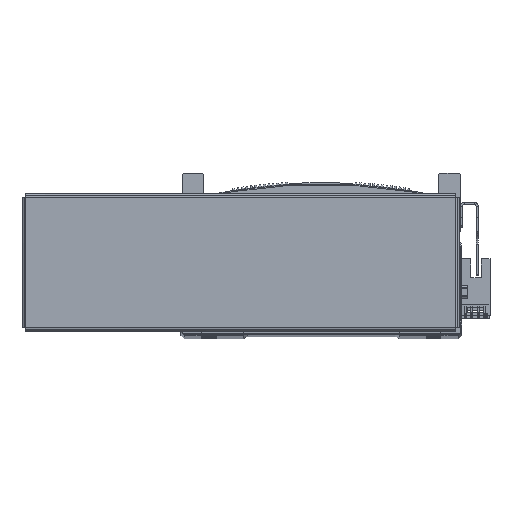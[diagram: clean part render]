
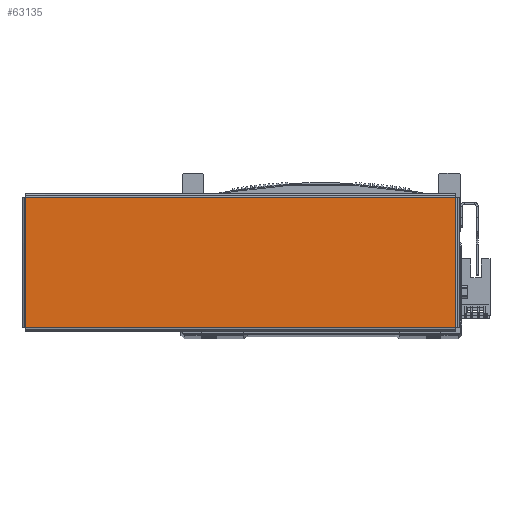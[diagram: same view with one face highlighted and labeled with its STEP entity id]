
A CAD part, top view. The second image highlights one B-rep face of the part: STEP entity #63135.
In plain terms, the highlighted planar face has unit normal (0, 0, 1) as drawn and (0, -1, 0) by its records, which use the part's own axes.
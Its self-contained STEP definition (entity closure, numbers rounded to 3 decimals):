
#4062 = CARTESIAN_POINT ( 'NONE',  ( -103.513, -1., 31.393 ) ) ;
#4072 = DIRECTION ( 'NONE',  ( 0., 0., -1. ) ) ;
#4110 = CARTESIAN_POINT ( 'NONE',  ( -103.543, -1., -31.363 ) ) ;
#4113 = DIRECTION ( 'NONE',  ( 1., 0., 0. ) ) ;
#4127 = CARTESIAN_POINT ( 'NONE',  ( 103.543, -1., 31.363 ) ) ;
#4188 = DIRECTION ( 'NONE',  ( -1., 0., 0. ) ) ;
#4222 = DIRECTION ( 'NONE',  ( 0., 0., 1. ) ) ;
#4225 = CARTESIAN_POINT ( 'NONE',  ( 103.513, -1., -31.393 ) ) ;
#5406 = AXIS2_PLACEMENT_3D ( 'NONE', #19233, #19224, #19238 ) ;
#19224 = DIRECTION ( 'NONE',  ( 0., 1., 0. ) ) ;
#19233 = CARTESIAN_POINT ( 'NONE',  ( 0., -1., 0. ) ) ;
#19238 = DIRECTION ( 'NONE',  ( 0., 0., 1. ) ) ;
#19263 = PLANE ( 'NONE',  #5406 ) ;
#29894 = ORIENTED_EDGE ( 'NONE', *, *, #64880, .T. ) ;
#29896 = ORIENTED_EDGE ( 'NONE', *, *, #64928, .T. ) ;
#29913 = ORIENTED_EDGE ( 'NONE', *, *, #64902, .T. ) ;
#29925 = ORIENTED_EDGE ( 'NONE', *, *, #64908, .T. ) ;
#36789 = CARTESIAN_POINT ( 'NONE',  ( -103.513, -1., 31.363 ) ) ;
#36816 = CARTESIAN_POINT ( 'NONE',  ( 103.513, -1., -31.363 ) ) ;
#36840 = CARTESIAN_POINT ( 'NONE',  ( 103.513, -1., 31.363 ) ) ;
#36897 = CARTESIAN_POINT ( 'NONE',  ( -103.513, -1., -31.363 ) ) ;
#43794 = VERTEX_POINT ( 'NONE', #36816 ) ;
#43800 = VERTEX_POINT ( 'NONE', #36789 ) ;
#43832 = VERTEX_POINT ( 'NONE', #36840 ) ;
#43847 = VERTEX_POINT ( 'NONE', #36897 ) ;
#47210 = LINE ( 'NONE', #4062, #47260 ) ;
#47212 = LINE ( 'NONE', #4110, #47251 ) ;
#47229 = LINE ( 'NONE', #4127, #47248 ) ;
#47248 = VECTOR ( 'NONE', #4188, 1000. ) ;
#47251 = VECTOR ( 'NONE', #4113, 1000. ) ;
#47260 = VECTOR ( 'NONE', #4072, 1000. ) ;
#47314 = VECTOR ( 'NONE', #4222, 1000. ) ;
#47327 = LINE ( 'NONE', #4225, #47314 ) ;
#63135 = ADVANCED_FACE ( 'NONE', ( #67261 ), #19263, .F. ) ;
#64880 = EDGE_CURVE ( 'NONE', #43800, #43847, #47210, .T. ) ;
#64902 = EDGE_CURVE ( 'NONE', #43847, #43794, #47212, .T. ) ;
#64908 = EDGE_CURVE ( 'NONE', #43832, #43800, #47229, .T. ) ;
#64928 = EDGE_CURVE ( 'NONE', #43794, #43832, #47327, .T. ) ;
#67261 = FACE_OUTER_BOUND ( 'NONE', #71587, .T. ) ;
#71587 = EDGE_LOOP ( 'NONE', ( #29925, #29894, #29913, #29896 ) ) ;
